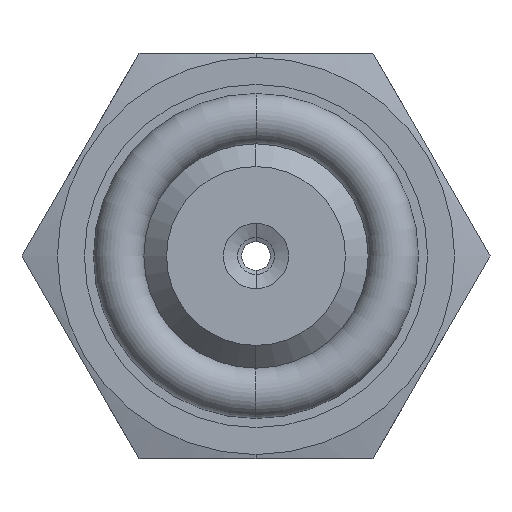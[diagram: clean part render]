
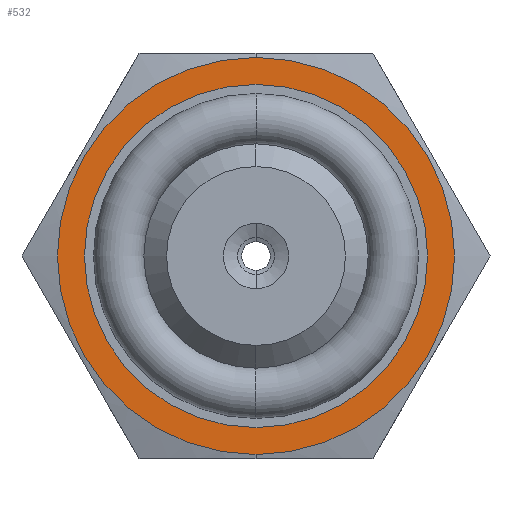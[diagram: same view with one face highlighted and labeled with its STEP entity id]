
A CAD part, left-side view. The second image highlights one B-rep face of the part: STEP entity #532.
In plain terms, the highlighted planar face has unit normal (-1, 0, 0).
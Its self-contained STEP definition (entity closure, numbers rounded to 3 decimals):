
#123 = VERTEX_POINT ( 'NONE', #813 ) ;
#131 = EDGE_CURVE ( 'NONE', #123, #136, #865, .T. ) ;
#136 = VERTEX_POINT ( 'NONE', #854 ) ;
#182 = EDGE_CURVE ( 'NONE', #187, #183, #952, .T. ) ;
#183 = VERTEX_POINT ( 'NONE', #947 ) ;
#187 = VERTEX_POINT ( 'NONE', #944 ) ;
#531 = EDGE_CURVE ( 'NONE', #183, #187, #1262, .T. ) ;
#532 = ADVANCED_FACE ( 'NONE', ( #1587, #1586 ), #1585, .T. ) ;
#533 = EDGE_LOOP ( 'NONE', ( #534, #535 ) ) ;
#534 = ORIENTED_EDGE ( 'NONE', *, *, #531, .F. ) ;
#535 = ORIENTED_EDGE ( 'NONE', *, *, #182, .F. ) ;
#536 = EDGE_LOOP ( 'NONE', ( #537, #539 ) ) ;
#537 = ORIENTED_EDGE ( 'NONE', *, *, #538, .T. ) ;
#538 = EDGE_CURVE ( 'NONE', #136, #123, #1579, .T. ) ;
#539 = ORIENTED_EDGE ( 'NONE', *, *, #131, .T. ) ;
#813 = CARTESIAN_POINT ( 'NONE',  ( -2.7, 0., 7. ) ) ;
#854 = CARTESIAN_POINT ( 'NONE',  ( -2.7, 0., -7. ) ) ;
#857 = DIRECTION ( 'NONE',  ( 0., 0., 1. ) ) ;
#858 = DIRECTION ( 'NONE',  ( -1., 0., 0. ) ) ;
#859 = CARTESIAN_POINT ( 'NONE',  ( -2.7, 0., 0. ) ) ;
#860 = AXIS2_PLACEMENT_3D ( 'NONE', #859, #858, #857 ) ;
#865 = CIRCLE ( 'NONE', #860, 7. ) ;
#944 = CARTESIAN_POINT ( 'NONE',  ( -2.7, 0., -6.05 ) ) ;
#947 = CARTESIAN_POINT ( 'NONE',  ( -2.7, 0., 6.05 ) ) ;
#948 = DIRECTION ( 'NONE',  ( 0., 0., 1. ) ) ;
#949 = DIRECTION ( 'NONE',  ( -1., 0., 0. ) ) ;
#950 = CARTESIAN_POINT ( 'NONE',  ( -2.7, 0., 0. ) ) ;
#951 = AXIS2_PLACEMENT_3D ( 'NONE', #950, #949, #948 ) ;
#952 = CIRCLE ( 'NONE', #951, 6.05 ) ;
#1254 = DIRECTION ( 'NONE',  ( 0., 0., 1. ) ) ;
#1255 = DIRECTION ( 'NONE',  ( -1., 0., 0. ) ) ;
#1256 = CARTESIAN_POINT ( 'NONE',  ( -2.7, 0., 0. ) ) ;
#1261 = AXIS2_PLACEMENT_3D ( 'NONE', #1256, #1255, #1254 ) ;
#1262 = CIRCLE ( 'NONE', #1261, 6.05 ) ;
#1576 = DIRECTION ( 'NONE',  ( 0., 0., 1. ) ) ;
#1577 = DIRECTION ( 'NONE',  ( -1., 0., 0. ) ) ;
#1578 = AXIS2_PLACEMENT_3D ( 'NONE', #1584, #1577, #1576 ) ;
#1579 = CIRCLE ( 'NONE', #1578, 7. ) ;
#1580 = DIRECTION ( 'NONE',  ( 0., 0., 1. ) ) ;
#1581 = DIRECTION ( 'NONE',  ( -1., 0., 0. ) ) ;
#1582 = CARTESIAN_POINT ( 'NONE',  ( -2.7, 0., 0. ) ) ;
#1583 = AXIS2_PLACEMENT_3D ( 'NONE', #1582, #1581, #1580 ) ;
#1584 = CARTESIAN_POINT ( 'NONE',  ( -2.7, 0., 0. ) ) ;
#1585 = PLANE ( 'NONE',  #1583 ) ;
#1586 = FACE_OUTER_BOUND ( 'NONE', #536, .T. ) ;
#1587 = FACE_BOUND ( 'NONE', #533, .T. ) ;
